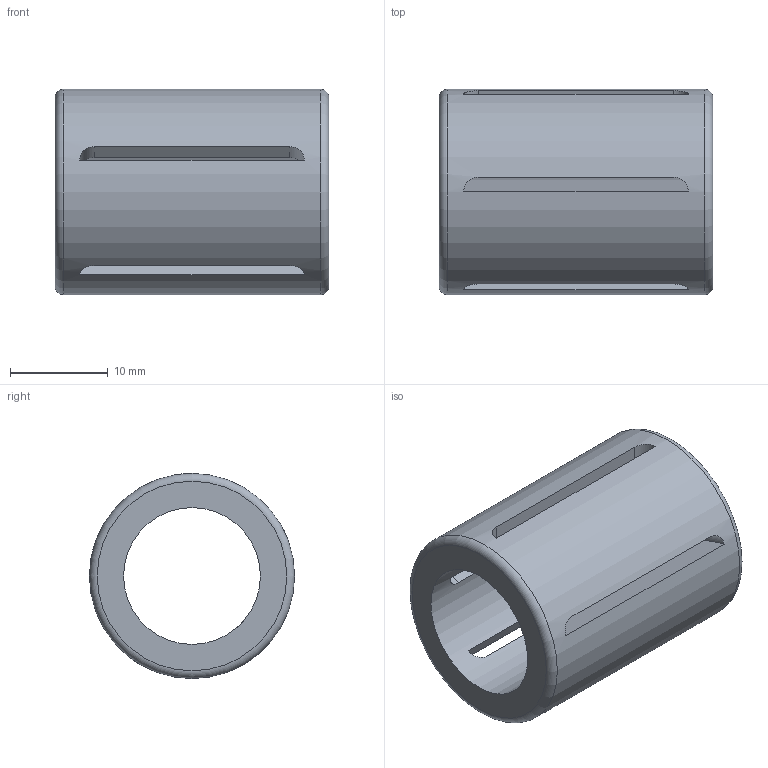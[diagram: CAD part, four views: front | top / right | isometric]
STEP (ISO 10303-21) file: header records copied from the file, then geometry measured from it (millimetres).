
FILE_DESCRIPTION(/* description */ ('Unknown'),/* implementation_level */ '2;1');
FILE_NAME(/* name */ 'KH1428',/* time_stamp */ '2025-02-04T09:47:17+08:00',/* author */ ('Unknown'),/* organization */ ('Unknown'),/* preprocessor_version */ 'ST-DEVELOPER v18.102',/* originating_system */ 'Solid Edge',/* authorisation */ 'Unknown');
FILE_SCHEMA (('AUTOMOTIVE_DESIGN {1 0 10303 214 3 1 1}'));
Length unit declared in the file: millimetre
Products named in the file (1): KH1428
Bounding box: 28 x 21 x 21 mm (x, y, z)
Volume: 4780.2 mm3; surface area: 3921.7 mm2
Topology: 1 solids, 1 shells, 26 faces, 70 edges, 46 vertices
Faces by surface type: cylinder 12, plane 12, torus 2
Full cylindrical faces by diameter (mm): 14 x1, 21 x1
Entity records: 878 total; most frequent: CARTESIAN_POINT 219, ORIENTED_EDGE 132, DIRECTION 106, EDGE_CURVE 66, VERTEX_POINT 46, EDGE_LOOP 42, FACE_BOUND 42, LINE 40
